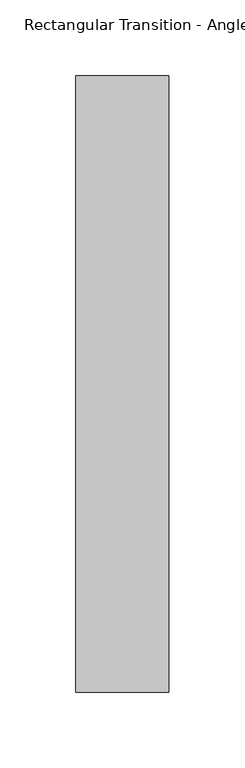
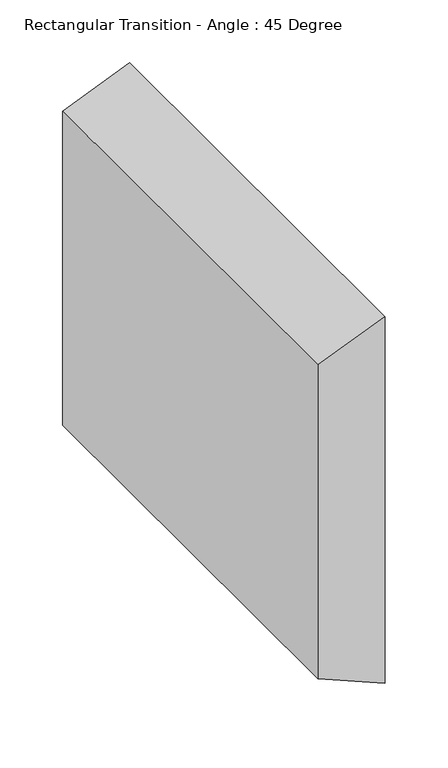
"""IFC4 building model written with IfcOpenShell, lengths in millimetres: duct fitting geometry, Rectangular Transition - Angle : 45 Degree."""

from ifc_helpers import new_model, si_unit, frame, origin, place, context, project, spatial, polyline, outline, extrude, source, transform, mapped, element, save


def rectangular_transition_angle_45_degree_4b662868(model_context):
    return source(origin(), model_context, "Body", "SweptSolid", [
        extrude(outline(polyline([(152.4, 0.0), (-152.4, 0.0), (-177.8, 61.3210245), (177.8, 61.3210245), (152.4, 0.0)])), frame((0.0, -203.2, 0.0), z_axis=(0.0, 1.0, 0.0), x_axis=(0.0, 0.0, 1.0)), (0.0, 0.0, 1.0), 406.4),
    ])


if __name__ == "__main__":
    model = new_model("IFC4")
    model_context = context("Model", 3, world=origin())
    ifc_project = project(units=[si_unit("LENGTHUNIT", "METRE", prefix="MILLI")], contexts=[model_context])
    site = spatial("IfcSite", under=ifc_project)
    building = spatial("IfcBuilding", under=site)
    placement = place(None, origin())
    rectangular_transition_angle_45_degree_shape = rectangular_transition_angle_45_degree_4b662868(model_context)
    element("IfcDuctFitting", 1, ObjectType="Rectangular Transition - Angle : 45 Degree", at=placement, inside=building, context=model_context, shape_type="MappedRepresentation", body=[
        mapped(rectangular_transition_angle_45_degree_shape, transform((0.0, 0.0, 0.0), x_axis=(1.0, 0.0, 0.0), y_axis=(0.0, 1.0, 0.0), z_axis=(0.0, 0.0, 1.0))),
    ])
    save(model, "model.ifc")
